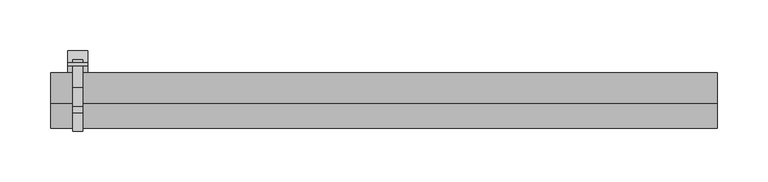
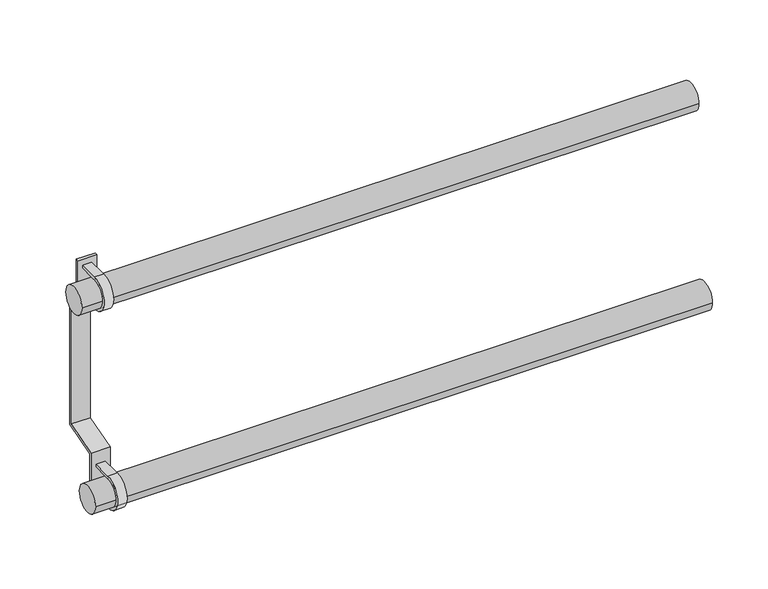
"""IFC4 building model written with IfcOpenShell, lengths in millimetres: valve geometry, PL CZ_Manifold_FT-VA : 12 circuits."""

from ifc_helpers import new_model, si_unit, point, frame, frame_2d, origin, origin_2d, place, context, project, spatial, polyline, circle_curve, trimmed, segment, composite_curve, outline, extrude, source, transform, mapped, element, save


def valve_323f5917(model_context):
    return source(origin(), model_context, "Body", "SweptSolid", [
        extrude(outline(composite_curve([segment(trimmed(circle_curve(origin_2d(), 15.0), [point((0.0, 15.0))], [point((0.0, -15.0))], True, "CARTESIAN"), True, "CONTINUOUS"), segment(polyline([(0.0, -15.0), (27.6751284, -15.0), (27.6751284, -18.0), (0.0, -18.0)]), True, "CONTINUOUS"), segment(trimmed(circle_curve(origin_2d(), 18.0), [point((0.0, -18.0))], [point((0.0, 18.0))], False, "CARTESIAN"), True, "CONTINUOUS"), segment(polyline([(0.0, 18.0), (27.6751284, 18.0), (27.6751284, 15.0), (0.0, 15.0)]), True, "CONTINUOUS")], self_intersect=False)), frame((5.0, 0.0, 0.0), z_axis=(1.0, 0.0, 0.0), x_axis=(0.0, 1.0, 0.0)), (0.0, 0.0, 1.0), 10.0),
        extrude(outline(composite_curve([segment(trimmed(circle_curve(frame_2d((25.0, 210.0)), 15.0), [point((25.0, 225.0))], [point((25.0, 195.0))], True, "CARTESIAN"), True, "CONTINUOUS"), segment(polyline([(25.0, 195.0), (52.6751284, 195.0), (52.6751284, 192.0), (25.0, 192.0)]), True, "CONTINUOUS"), segment(trimmed(circle_curve(frame_2d((25.0, 210.0)), 18.0), [point((25.0, 192.0))], [point((25.0, 228.0))], False, "CARTESIAN"), True, "CONTINUOUS"), segment(polyline([(25.0, 228.0), (52.6751284, 228.0), (52.6751284, 225.0), (25.0, 225.0)]), True, "CONTINUOUS")], self_intersect=False)), frame((5.0, 0.0, 0.0), z_axis=(1.0, 0.0, 0.0), x_axis=(0.0, 1.0, 0.0)), (0.0, 0.0, 1.0), 10.0),
        extrude(outline(polyline([(62.0, 182.8840762), (62.0, 40.6095793), (25.0, 30.0), (25.0, -30.0), (22.0, -30.0), (22.0, 32.2606622), (59.0, 42.8702414), (59.0, 180.3667773), (47.0, 182.4827011), (47.0, 235.0), (50.0, 235.0), (50.0, 185.0), (62.0, 182.8840762)])), frame((0.0, 0.0, 0.0), z_axis=(1.0, 0.0, 0.0), x_axis=(0.0, 1.0, 0.0)), (0.0, 0.0, 1.0), 20.0),
        extrude(outline(composite_curve([segment(trimmed(circle_curve(origin_2d(), 15.0), [point((15.0, 0.0))], [point((-15.0, 0.0))], False, "CARTESIAN"), True, "CONTINUOUS"), segment(trimmed(circle_curve(origin_2d(), 15.0), [point((-15.0, 0.0))], [point((15.0, 0.0))], False, "CARTESIAN"), True, "CONTINUOUS")], self_intersect=False)), frame((-17.0, 0.0, 0.0), z_axis=(1.0, 0.0, 0.0), x_axis=(0.0, 1.0, 0.0)), (0.0, 0.0, 1.0), 660.0),
        extrude(outline(composite_curve([segment(trimmed(circle_curve(frame_2d((25.0, 210.0)), 15.0), [point((40.0, 210.0))], [point((10.0, 210.0))], False, "CARTESIAN"), True, "CONTINUOUS"), segment(trimmed(circle_curve(frame_2d((25.0, 210.0)), 15.0), [point((10.0, 210.0))], [point((40.0, 210.0))], False, "CARTESIAN"), True, "CONTINUOUS")], self_intersect=False)), frame((-17.0, 0.0, 0.0), z_axis=(1.0, 0.0, 0.0), x_axis=(0.0, 1.0, 0.0)), (0.0, 0.0, 1.0), 660.0),
    ])


if __name__ == "__main__":
    model = new_model("IFC4")
    model_context = context("Model", 3, world=origin())
    ifc_project = project(units=[si_unit("LENGTHUNIT", "METRE", prefix="MILLI")], contexts=[model_context])
    site = spatial("IfcSite", under=ifc_project)
    building = spatial("IfcBuilding", under=site)
    placement = place(None, origin())
    valve_shape = valve_323f5917(model_context)
    element("IfcValve", 1, ObjectType="PL CZ_Manifold_FT-VA : 12 circuits", at=placement, inside=building, context=model_context, shape_type="MappedRepresentation", body=[
        mapped(valve_shape, transform((0.0, 0.0, 0.0), x_axis=(1.0, 0.0, 0.0), y_axis=(0.0, 1.0, 0.0), z_axis=(0.0, 0.0, 1.0))),
    ])
    save(model, "model.ifc")
